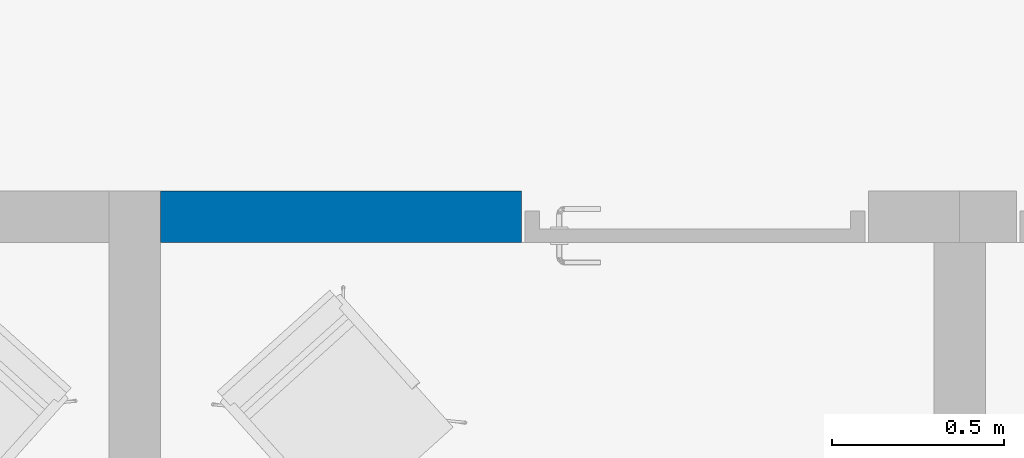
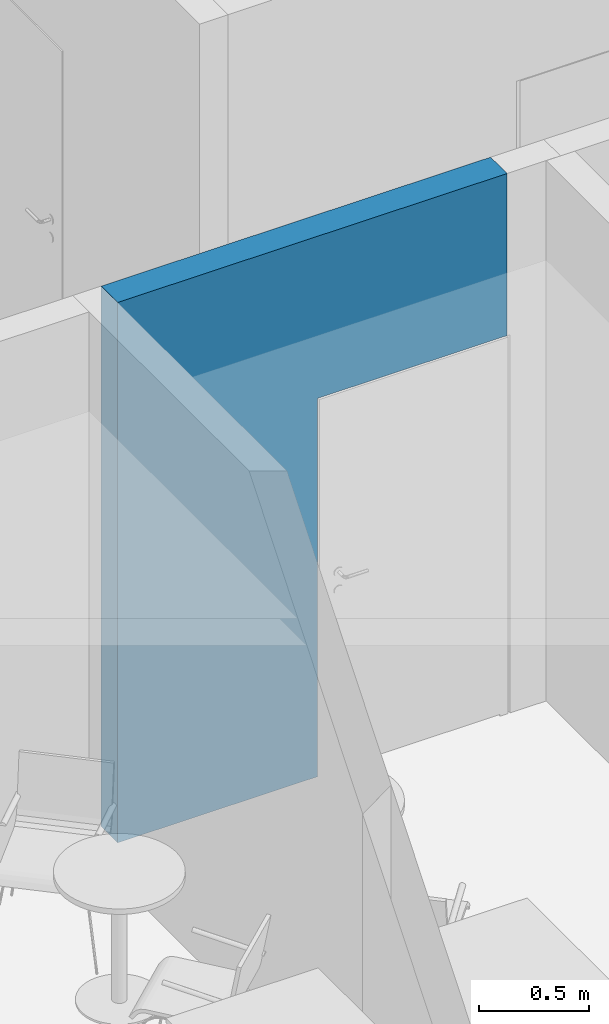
# One storey, part 19 of 58: 1 wall, 2 openings.
"""IFC2X3 building model written with IfcOpenShell, lengths in millimetres."""

from ifc_helpers import new_model, entity, si_unit, converted_unit, derived_unit, direction, frame, frame_2d, origin, place, context, subcontext, project, spatial, rectangle, extrude, material, layer, layer_set, layer_usage, type_object, element, save


model = new_model("IFC2X3")

# Units and contexts
model_context = context("Model", 3, precision=0.01, world=origin(), true_north=direction((0.7716245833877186, 0.6360782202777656)))
body_context = subcontext(model_context, "Body", "Model", "MODEL_VIEW")
ifc_project = project(units=[si_unit("LENGTHUNIT", "METRE", prefix="MILLI"), si_unit("AREAUNIT", "SQUARE_METRE"), converted_unit("PLANEANGLEUNIT", "DEGREE", entity("IfcPlaneAngleMeasure", 0.017453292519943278), si_unit("PLANEANGLEUNIT", "RADIAN"), dimensions=[0, 0, 0, 0, 0, 0, 0]), derived_unit("THERMALTRANSMITTANCEUNIT", [(si_unit("MASSUNIT", "GRAM", prefix="KILO"), 1), (si_unit("THERMODYNAMICTEMPERATUREUNIT", "KELVIN"), -1), (si_unit("TIMEUNIT", "SECOND"), -3)])], contexts=[model_context])

# Site, building, storey
site_placement = place(None, origin())
site = spatial("IfcSite", under=ifc_project, at=site_placement, Name="Default", CompositionType="ELEMENT")
building_placement = place(site_placement, origin())
building = spatial("IfcBuilding", under=site, at=building_placement, CompositionType="ELEMENT")
storey_placement = place(building_placement, frame((0.0, 0.0, 31140.0)))
storey = spatial("IfcBuildingStorey", under=building, at=storey_placement, Name="PLAN U1", CompositionType="ELEMENT", Elevation=31140.000000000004)

# Wall, openings
ifc_material = material(Name="Eksist. vegg")
ifc_layer = layer(ifc_material, 150.0)
ifc_layer_set = layer_set([ifc_layer], Name="Basic Wall:240 Eksist. Innervegg 150 mm")
ifc_layer_usage = layer_usage(ifc_layer_set, "AXIS2", "NEGATIVE", 75.0)
wall_type = type_object("IfcWallType", Name="Basic Wall:240 Eksist. Innervegg 150 mm", PredefinedType="STANDARD", material=ifc_layer_set)
wall_placement = place(storey_placement, frame((270842.924446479, 57590.25555007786, 0.0)))
wall = element("IfcWallStandardCase", 1, at=wall_placement, inside=storey, type_object=wall_type, material=ifc_layer_usage, Name="Basic Wall:240 Eksist. Innervegg 150 mm", ObjectType="Basic Wall:240 Eksist. Innervegg 150 mm", context=body_context, shape_type="SweptSolid", body=[
    extrude(rectangle(XDim=2045.000000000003, YDim=150.00000000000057, at=frame_2d((1022.5000000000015, 2.9558577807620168e-12), x_axis=(-1.0, 0.0))), origin(), (0.0, 0.0, 1.0), 2999.9999999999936),
])
opening_1_placement = place(wall_placement, frame((2060.0, 75.0, 0.0)))
element("IfcOpeningElement", 2, at=opening_1_placement, cuts=wall, Name="Enfløyet:2441 Innvendig 10x21M:1", ObjectType="Opening", context=body_context, shape_type="SweptSolid", body=[
    extrude(rectangle(XDim=2100.0, YDim=1009.9999999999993, at=frame_2d((1049.9999999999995, 505.0000000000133), x_axis=(1.0, 0.0))), frame((0.0, 0.0, 0.0), z_axis=(0.0, -1.0, 0.0), x_axis=(0.0, 0.0, 1.0)), (0.0, 0.0, 1.0), 150.0),
])
opening_2_placement = place(wall_placement, frame((-270842.924446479, -57590.25555007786, 0.0)))
element("IfcOpeningElement", 3, at=opening_2_placement, cuts=wall, Name="Basic Wall:240 Eksist. Innervegg 150 mm", ObjectType="Opening", context=body_context, shape_type="SweptSolid", body=[
    extrude(rectangle(XDim=2099.999999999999, YDim=1010.000000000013, at=frame_2d((0.0, 0.0), x_axis=(0.0, 1.0))), frame((272397.92444647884, 56141.25555007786, 1050.0), z_axis=(0.0, 1.0, 0.0), x_axis=(-1.0, 0.0, 0.0)), (0.0, 0.0, 1.0), 3048.0),
])

save(model, "model.ifc")
